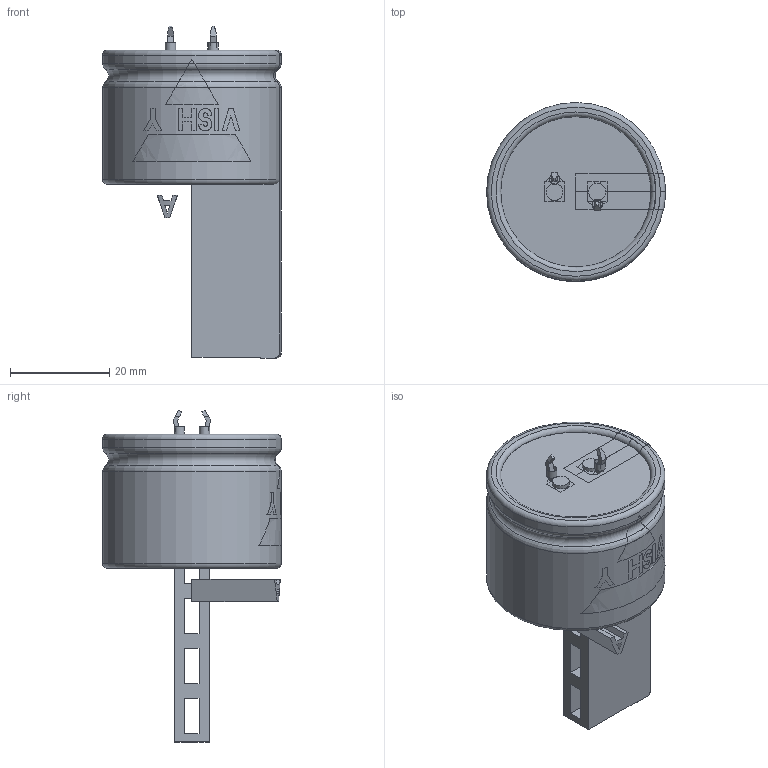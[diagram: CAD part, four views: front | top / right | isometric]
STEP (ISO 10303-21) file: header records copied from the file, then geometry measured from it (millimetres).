
FILE_DESCRIPTION(('FreeCAD Model'),'2;1');
FILE_NAME( 'C:/Users/Gebruiker/Documents/FreeCAD/SnapIn_35x25_2pin_4.0.step', '2020-11-12T20:33:23',('Author'),(''), 'Open CASCADE STEP processor 6.8','FreeCAD','Unknown');
FILE_SCHEMA(('AUTOMOTIVE_DESIGN_CC2 { 1 2 10303 214 -1 1 5 4 }'));
Length unit declared in the file: millimetre
Products named in the file (9): ASSEMBLY; TerminalMin; TerminalPlus; PCBHoles; Disc; BottomInsulation; Can3D; InkMinusBar; InkLogo
Assembly tree (8 placements, depth 2):
  ASSEMBLY
    TerminalMin
    TerminalPlus
    PCBHoles
    Disc
    BottomInsulation
    Can3D
    InkMinusBar
    InkLogo
Bounding box: 36.05 x 36.05 x 66.95 mm (x, y, z)
Volume: 9232.9 mm3; surface area: 15586.1 mm2
Topology: 15 solids, 20 shells, 200 faces, 509 edges, 333 vertices
Faces by surface type: plane 145, cylinder 30, torus 21, cone 4
Full cylindrical faces by diameter (mm): 2 x2, 2.1 x2, 3.4 x2, 28.8 x2, 30.3 x1, 36 x2
Entity records: 22358 total; most frequent: CARTESIAN_POINT 11069, DIRECTION 1770, ORIENTED_EDGE 1006, PCURVE 1006, DEFINITIONAL_REPRESENTATION 1006, LINE 987, VECTOR 987, EDGE_CURVE 507
